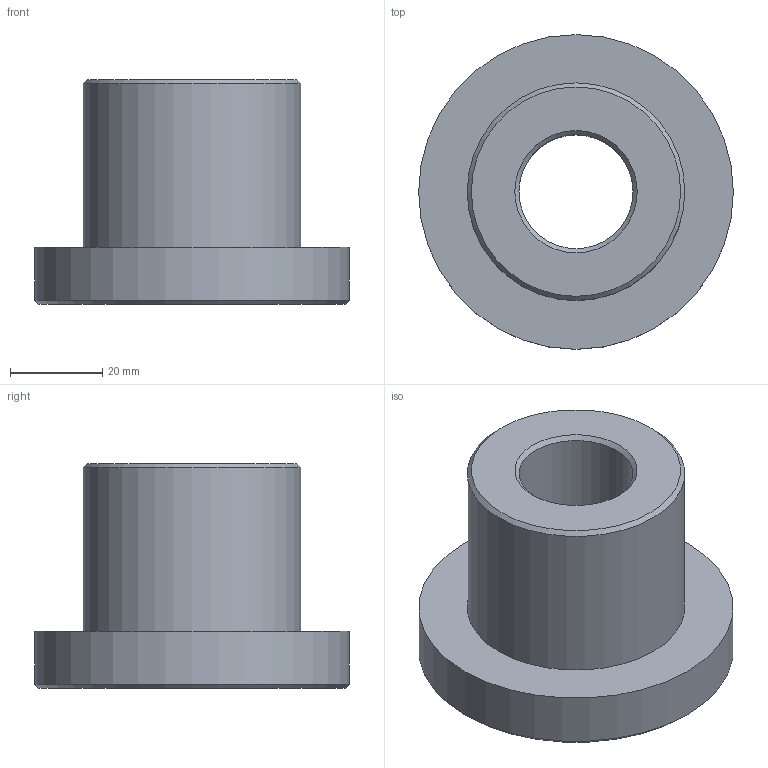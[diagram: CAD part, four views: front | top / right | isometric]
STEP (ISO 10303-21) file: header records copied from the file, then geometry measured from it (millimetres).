
FILE_DESCRIPTION(('Mechanical CAD reference from nasji.com'),'2;1');
FILE_NAME('NASJI.step','',(''),(''),'','NASJI distribution','');
FILE_SCHEMA(('AUTOMOTIVE_DESIGN { 1 0 10303 214 1 1 1 1 }'));
Length unit declared in the file: millimetre
Products named in the file (1): Open CASCADE STEP translator 7.8 230
Bounding box: 68.4 x 68.4 x 48.9 mm (x, y, z)
Volume: 85842 mm3; surface area: 18006.3 mm2
Topology: 1 solids, 1 shells, 10 faces, 17 edges, 10 vertices
Faces by surface type: cone 4, plane 3, cylinder 3
Full cylindrical faces by diameter (mm): 24.8 x1, 47.29 x1, 68.4 x1
Entity records: 466 total; most frequent: CARTESIAN_POINT 80, DIRECTION 75, ORIENTED_EDGE 34, PCURVE 34, DEFINITIONAL_REPRESENTATION 34, LINE 27, VECTOR 27, AXIS2_PLACEMENT_3D 21
